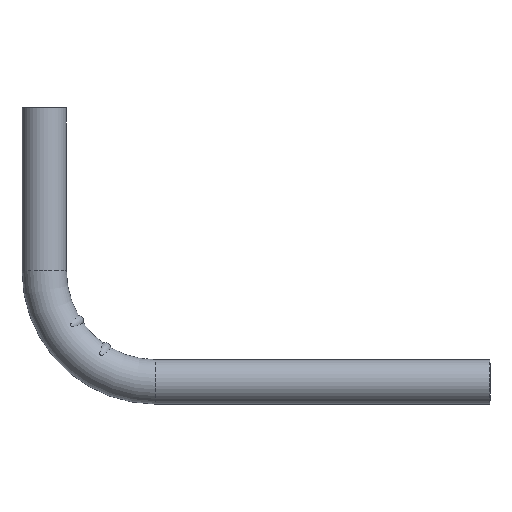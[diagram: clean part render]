
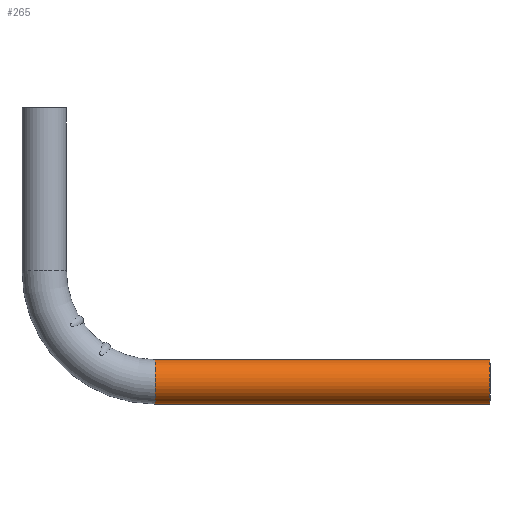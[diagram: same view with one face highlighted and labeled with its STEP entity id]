
A CAD part, top view. The second image highlights one B-rep face of the part: STEP entity #265.
In plain terms, the highlighted cylindrical face has radius 37.5 mm (diameter 75 mm), a partial arc.
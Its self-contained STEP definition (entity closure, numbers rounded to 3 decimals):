
#62 = FACE_OUTER_BOUND ( 'NONE', #1154, .T. ) ;
#95 = LINE ( 'NONE', #800, #152 ) ;
#123 = ORIENTED_EDGE ( 'NONE', *, *, #561, .T. ) ;
#152 = VECTOR ( 'NONE', #1281, 1000. ) ;
#212 = AXIS2_PLACEMENT_3D ( 'NONE', #546, #1521, #1246 ) ;
#224 = ORIENTED_EDGE ( 'NONE', *, *, #396, .F. ) ;
#265 = ADVANCED_FACE ( 'NONE', ( #62 ), #1127, .T. ) ;
#267 = CARTESIAN_POINT ( 'NONE',  ( -122.5, -37.5, 0. ) ) ;
#313 = CARTESIAN_POINT ( 'NONE',  ( 442.5, -37.5, 0. ) ) ;
#332 = AXIS2_PLACEMENT_3D ( 'NONE', #1417, #1041, #1291 ) ;
#333 = DIRECTION ( 'NONE',  ( 0., 0., -1. ) ) ;
#349 = VERTEX_POINT ( 'NONE', #831 ) ;
#358 = CIRCLE ( 'NONE', #332, 37.5 ) ;
#396 = EDGE_CURVE ( 'NONE', #349, #910, #95, .T. ) ;
#546 = CARTESIAN_POINT ( 'NONE',  ( -122.5, 0., 0. ) ) ;
#561 = EDGE_CURVE ( 'NONE', #882, #1461, #917, .T. ) ;
#592 = ORIENTED_EDGE ( 'NONE', *, *, #990, .T. ) ;
#616 = CARTESIAN_POINT ( 'NONE',  ( 442.5, 37.5, 0. ) ) ;
#690 = CARTESIAN_POINT ( 'NONE',  ( -122.5, 0., 0. ) ) ;
#800 = CARTESIAN_POINT ( 'NONE',  ( -122.5, 37.5, 0. ) ) ;
#831 = CARTESIAN_POINT ( 'NONE',  ( -122.5, 37.5, 0. ) ) ;
#850 = ORIENTED_EDGE ( 'NONE', *, *, #1033, .F. ) ;
#882 = VERTEX_POINT ( 'NONE', #267 ) ;
#910 = VERTEX_POINT ( 'NONE', #616 ) ;
#917 = LINE ( 'NONE', #1543, #1217 ) ;
#937 = AXIS2_PLACEMENT_3D ( 'NONE', #690, #1545, #333 ) ;
#990 = EDGE_CURVE ( 'NONE', #349, #882, #1526, .T. ) ;
#1033 = EDGE_CURVE ( 'NONE', #910, #1461, #358, .T. ) ;
#1041 = DIRECTION ( 'NONE',  ( 1., 0., 0. ) ) ;
#1127 = CYLINDRICAL_SURFACE ( 'NONE', #212, 37.5 ) ;
#1154 = EDGE_LOOP ( 'NONE', ( #592, #123, #850, #224 ) ) ;
#1217 = VECTOR ( 'NONE', #1264, 1000. ) ;
#1246 = DIRECTION ( 'NONE',  ( 0., 1., 0. ) ) ;
#1264 = DIRECTION ( 'NONE',  ( 1., 0., 0. ) ) ;
#1281 = DIRECTION ( 'NONE',  ( 1., 0., 0. ) ) ;
#1291 = DIRECTION ( 'NONE',  ( 0., 0., -1. ) ) ;
#1417 = CARTESIAN_POINT ( 'NONE',  ( 442.5, 0., 0. ) ) ;
#1461 = VERTEX_POINT ( 'NONE', #313 ) ;
#1521 = DIRECTION ( 'NONE',  ( 1., 0., 0. ) ) ;
#1526 = CIRCLE ( 'NONE', #937, 37.5 ) ;
#1543 = CARTESIAN_POINT ( 'NONE',  ( -122.5, -37.5, 0. ) ) ;
#1545 = DIRECTION ( 'NONE',  ( 1., 0., 0. ) ) ;
